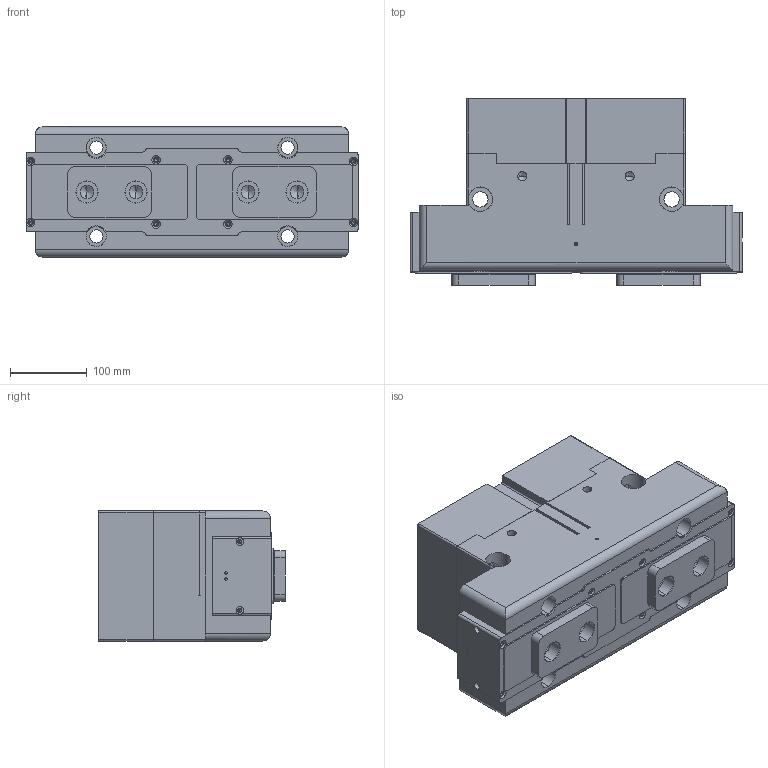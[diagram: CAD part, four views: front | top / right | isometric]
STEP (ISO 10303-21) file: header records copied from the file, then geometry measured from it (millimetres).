
FILE_DESCRIPTION (( 'STEP AP214' ), '1' );
FILE_NAME ('TWN-380A-2-IS-SD.STEP', '2019-12-10T10:31:24', ( '' ), ( '' ), 'SwSTEP 2.0', 'SolidWorks 2016', '' );
FILE_SCHEMA (( 'AUTOMOTIVE_DESIGN' ));
Length unit declared in the file: millimetre
Products named in the file (7): TWN-380A-2-IS-SD-02; TWN-380A-2-IS-SD-04; TWN-380A-2-IS-SD; TWN-380A-2-IS-SD-06; TWN-380A-2-IS-SD-03; TWN-380A-2-IS-SD-01; TWN-380A-2-IS-SD-05
Assembly tree (9 placements, depth 2):
  TWN-380A-2-IS-SD
    TWN-380A-2-IS-SD-01
    TWN-380A-2-IS-SD-03
    TWN-380A-2-IS-SD-02  x2
    TWN-380A-2-IS-SD-04
    TWN-380A-2-IS-SD-05  x2
    TWN-380A-2-IS-SD-06  x2
Bounding box: 433.8 x 244 x 170 mm (x, y, z)
Volume: 12220349.6 mm3; surface area: 968280.2 mm2
Topology: 9 solids, 12 shells, 654 faces, 1766 edges, 1114 vertices
Faces by surface type: cylinder 272, plane 270, cone 112
Entity records: 19182 total; most frequent: CARTESIAN_POINT 3847, DIRECTION 3014, ORIENTED_EDGE 2828, EDGE_CURVE 1414, AXIS2_PLACEMENT_3D 1083, VERTEX_POINT 932, LINE 848, VECTOR 848
